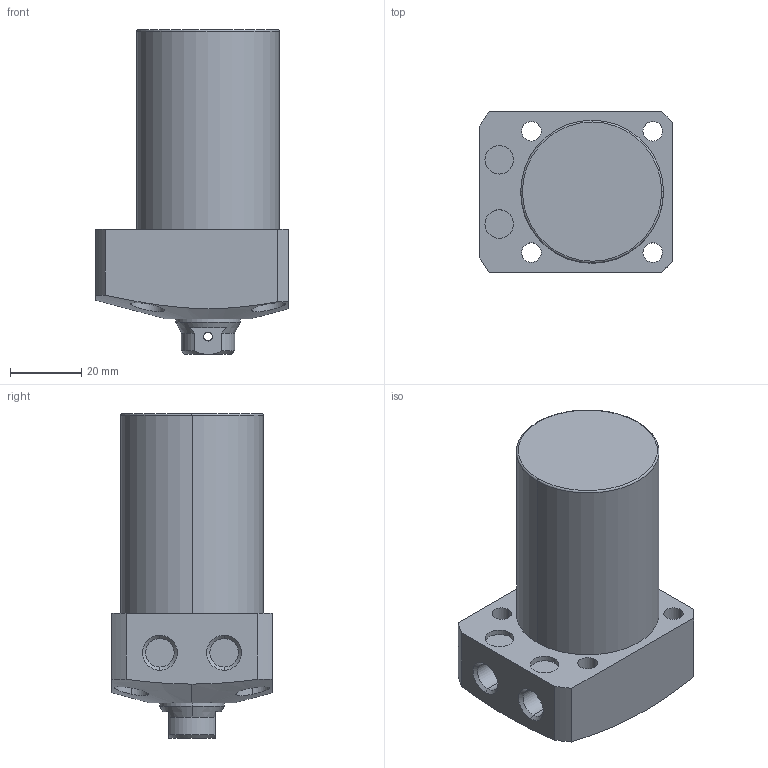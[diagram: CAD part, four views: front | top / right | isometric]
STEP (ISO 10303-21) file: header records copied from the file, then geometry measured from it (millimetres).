
FILE_DESCRIPTION (( 'STEP AP203' ), '1' );
FILE_NAME ('CLL-0400-CB-45.STEP', '2017-05-09T05:49:53', ( '' ), ( '' ), 'SwSTEP 2.0', 'SolidWorks 2015', '' );
FILE_SCHEMA (( 'CONFIG_CONTROL_DESIGN' ));
Length unit declared in the file: millimetre
Products named in the file (1): CLL-0400-CB-45
Bounding box: 54 x 45 x 91 mm (x, y, z)
Volume: 121787.7 mm3; surface area: 18965.6 mm2
Topology: 1 solids, 1 shells, 78 faces, 182 edges, 115 vertices
Faces by surface type: cylinder 39, plane 22, cone 15, torus 2
Entity records: 2728 total; most frequent: CARTESIAN_POINT 829, DIRECTION 394, ORIENTED_EDGE 360, EDGE_CURVE 180, AXIS2_PLACEMENT_3D 163, VERTEX_POINT 115, EDGE_LOOP 101, CIRCLE 84
